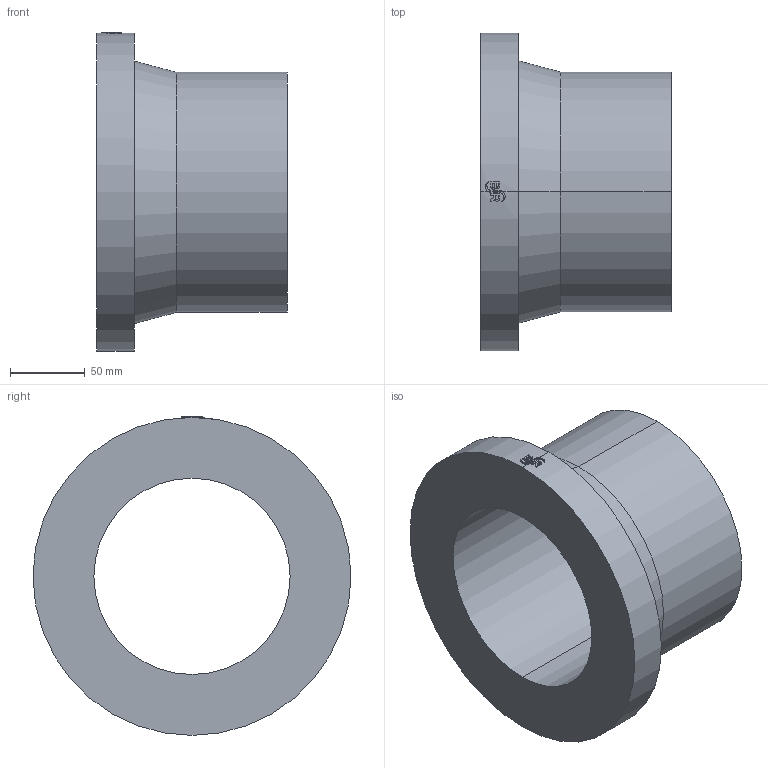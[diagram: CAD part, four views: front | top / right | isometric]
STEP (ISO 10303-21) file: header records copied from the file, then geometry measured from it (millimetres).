
FILE_DESCRIPTION (( 'STEP AP214' ), '1' );
FILE_NAME ('233517F015.STEP', '2018-07-20T09:14:00', ( '' ), ( '' ), 'SwSTEP 2.0', 'SolidWorks 2017', '' );
FILE_SCHEMA (( 'AUTOMOTIVE_DESIGN' ));
Length unit declared in the file: millimetre
Products named in the file (1): 233517F015
Bounding box: 127 x 212 x 212.5 mm (x, y, z)
Volume: 1281253.1 mm3; surface area: 161121.4 mm2
Topology: 1 solids, 1 shells, 60 faces, 154 edges, 102 vertices
Faces by surface type: cylinder 29, plane 29, cone 2
Entity records: 2861 total; most frequent: CARTESIAN_POINT 744, ORIENTED_EDGE 308, DIRECTION 282, EDGE_CURVE 154, AXIS2_PLACEMENT_3D 107, VERTEX_POINT 102, EDGE_LOOP 68, VECTOR 68
